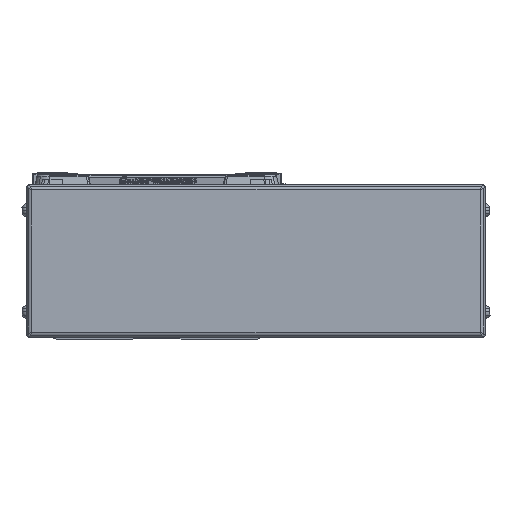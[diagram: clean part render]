
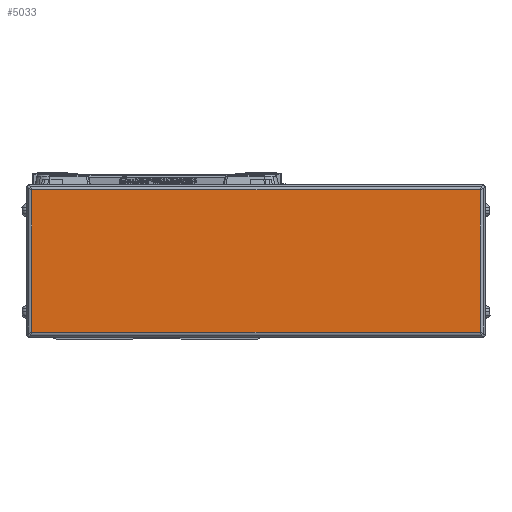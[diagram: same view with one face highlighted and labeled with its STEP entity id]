
A CAD part, left-side view. The second image highlights one B-rep face of the part: STEP entity #5033.
In plain terms, the highlighted planar face has unit normal (-1, 0, 0).
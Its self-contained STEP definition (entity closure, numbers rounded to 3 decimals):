
#5033=ADVANCED_FACE('',(#11505),#11506,.T.);
#11505=FACE_OUTER_BOUND('',#20055,.T.);
#11506=PLANE('',#20056);
#20055=EDGE_LOOP('',(#34549,#34550,#34551,#34552));
#20056=AXIS2_PLACEMENT_3D('',#34553,#34554,#34555);
#34549=ORIENTED_EDGE('',*,*,#53437,.F.);
#34550=ORIENTED_EDGE('',*,*,#53438,.F.);
#34551=ORIENTED_EDGE('',*,*,#53439,.F.);
#34552=ORIENTED_EDGE('',*,*,#52832,.F.);
#34553=CARTESIAN_POINT('',(-616.,-39.,0.));
#34554=DIRECTION('',(-1.0,0.,0.));
#34555=DIRECTION('',(0.,0.,1.0));
#52832=EDGE_CURVE('',#63318,#65037,#65038,.T.);
#53437=EDGE_CURVE('',#65663,#63318,#65916,.T.);
#53438=EDGE_CURVE('',#65917,#65663,#65918,.T.);
#53439=EDGE_CURVE('',#65037,#65917,#65919,.T.);
#63318=VERTEX_POINT('',#78853);
#65037=VERTEX_POINT('',#81316);
#65038=LINE('',#81317,#81318);
#65663=VERTEX_POINT('',#82144);
#65916=LINE('',#82526,#82527);
#65917=VERTEX_POINT('',#82528);
#65918=LINE('',#82529,#82530);
#65919=LINE('',#82531,#82532);
#78853=CARTESIAN_POINT('',(-616.,-127.2,28.));
#81316=CARTESIAN_POINT('',(-616.,-127.2,-28.));
#81317=CARTESIAN_POINT('',(-616.,-127.2,0.));
#81318=VECTOR('',#95368,10.0);
#82144=CARTESIAN_POINT('',(-616.,49.2,28.));
#82526=CARTESIAN_POINT('',(-616.,-39.,28.));
#82527=VECTOR('',#96188,10.0);
#82528=CARTESIAN_POINT('',(-616.0,49.2,-28.));
#82529=CARTESIAN_POINT('',(-616.,49.2,0.));
#82530=VECTOR('',#96189,10.0);
#82531=CARTESIAN_POINT('',(-616.,-39.,-28.));
#82532=VECTOR('',#96190,10.0);
#95368=DIRECTION('',(0.,0.,-1.0));
#96188=DIRECTION('',(0.,-1.0,0.));
#96189=DIRECTION('',(0.,0.,1.0));
#96190=DIRECTION('',(0.,1.0,0.));
